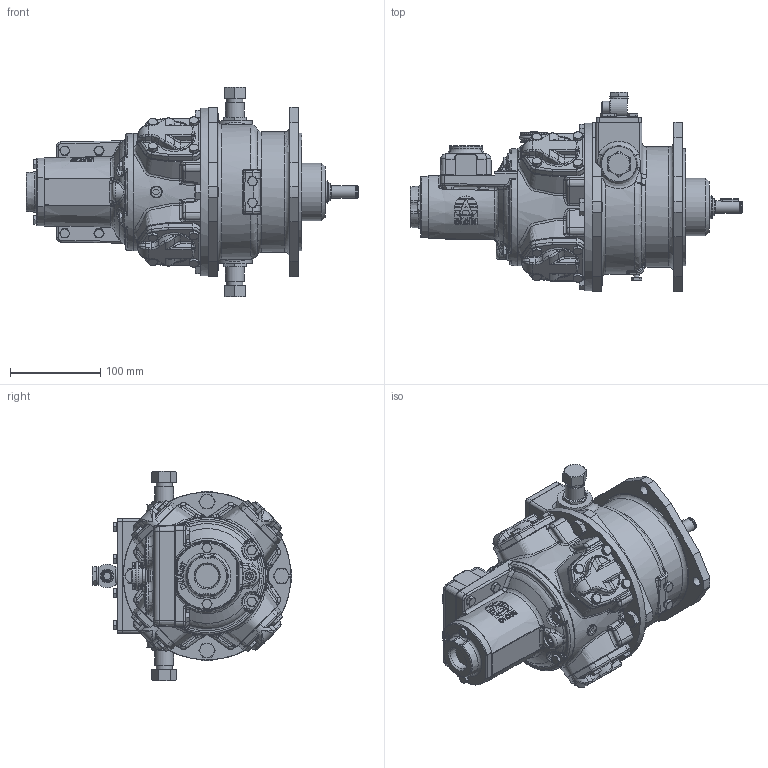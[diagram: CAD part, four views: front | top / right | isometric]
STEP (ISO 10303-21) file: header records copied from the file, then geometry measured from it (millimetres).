
FILE_DESCRIPTION (( 'STEP AP214' ), '1' );
FILE_NAME ('RM110+RM110 Brake Defeature + Logo.STEP', '2023-06-14T08:17:04', ( '' ), ( '' ), 'SwSTEP 2.0', 'SolidWorks 2022', '' );
FILE_SCHEMA (( 'AUTOMOTIVE_DESIGN' ));
Length unit declared in the file: millimetre
Products named in the file (1): RM110+RM110 Brake Defeature + Logo
Bounding box: 368.21 x 221.4 x 232.7 mm (x, y, z)
Volume: 4735537.3 mm3; surface area: 257029.5 mm2
Topology: 1 solids, 5 shells, 2738 faces, 6708 edges, 4004 vertices
Faces by surface type: plane 1112, bspline 600, cone 440, cylinder 406, torus 146, sphere 34
Full cylindrical faces by diameter (mm): 2 x2, 4.2 x1, 5.1 x1, 6.05 x2, 8 x1, 9 x1, 10 x37, 11 x4, 13.157 x2, 14 x2, 16 x4, 17.78 x2, 19 x1, 20.57 x2, 20.955 x2, 25.4 x1, 25.46 x1, 38.423 x1, 38.45 x1, 40.59 x1, 46.99 x1, 64 x1, 107.95 x1, 130 x2, 133.35 x1, 140 x1, 186 x1
Entity records: 160106 total; most frequent: CARTESIAN_POINT 72614, ORIENTED_EDGE 12858, DIRECTION 10452, EDGE_CURVE 6429, AXIS2_PLACEMENT_3D 4128, VERTEX_POINT 3927, EDGE_LOOP 2974, FACE_OUTER_BOUND 2826
